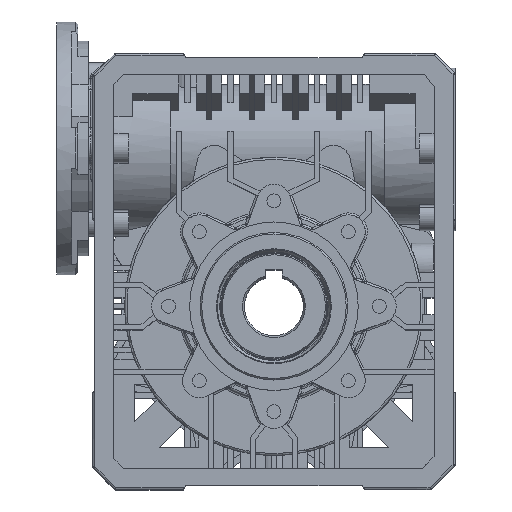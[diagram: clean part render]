
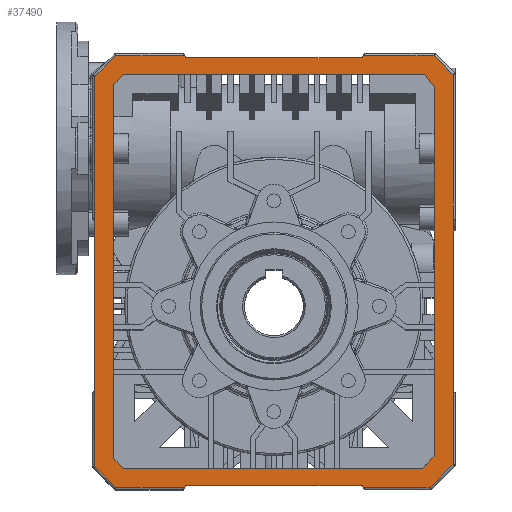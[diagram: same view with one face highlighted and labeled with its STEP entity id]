
A CAD part, top view. The second image highlights one B-rep face of the part: STEP entity #37490.
In plain terms, the highlighted planar face has unit normal (0, 0, 1).
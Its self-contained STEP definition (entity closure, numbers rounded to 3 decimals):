
#30376=CARTESIAN_POINT('',(-85.0,41.577,112.));
#30377=VERTEX_POINT('',#30376);
#32781=CARTESIAN_POINT('',(-42.423,119.0,112.));
#32782=VERTEX_POINT('',#32781);
#32790=CARTESIAN_POINT('',(-41.845,118.0,112.));
#32791=VERTEX_POINT('',#32790);
#32792=CARTESIAN_POINT('',(-41.845,118.0,112.));
#32793=DIRECTION('',(-0.5,0.866,0.0));
#32794=VECTOR('',#32793,1.155);
#32795=LINE('',#32792,#32794);
#32796=EDGE_CURVE('',#32791,#32782,#32795,.T.);
#33079=CARTESIAN_POINT('',(-85.,-40.423,112.));
#33080=VERTEX_POINT('',#33079);
#36899=CARTESIAN_POINT('',(85.0,-40.423,112.));
#36900=VERTEX_POINT('',#36899);
#36908=CARTESIAN_POINT('',(85.,-75.086,112.));
#36909=VERTEX_POINT('',#36908);
#36910=CARTESIAN_POINT('',(85.,-40.423,112.));
#36911=DIRECTION('',(0.0,-1.0,0.0));
#36912=VECTOR('',#36911,34.663);
#36913=LINE('',#36910,#36912);
#36914=EDGE_CURVE('',#36900,#36909,#36913,.T.);
#36939=CARTESIAN_POINT('',(74.086,-86.,112.));
#36940=VERTEX_POINT('',#36939);
#36941=CARTESIAN_POINT('',(85.,-75.086,112.));
#36942=DIRECTION('',(-0.707,-0.707,0.0));
#36943=VECTOR('',#36942,15.435);
#36944=LINE('',#36941,#36943);
#36945=EDGE_CURVE('',#36909,#36940,#36944,.T.);
#36963=CARTESIAN_POINT('',(42.423,-86.,112.));
#36964=VERTEX_POINT('',#36963);
#36980=CARTESIAN_POINT('',(74.086,-86.,112.));
#36981=DIRECTION('',(-1.0,0.0,0.0));
#36982=VECTOR('',#36981,31.663);
#36983=LINE('',#36980,#36982);
#36984=EDGE_CURVE('',#36940,#36964,#36983,.T.);
#37016=CARTESIAN_POINT('',(-42.423,-86.0,112.));
#37017=VERTEX_POINT('',#37016);
#37025=CARTESIAN_POINT('',(-75.086,-86.,112.));
#37026=VERTEX_POINT('',#37025);
#37027=CARTESIAN_POINT('',(-42.423,-86.0,112.));
#37028=DIRECTION('',(-1.0,0.0,0.0));
#37029=VECTOR('',#37028,32.663);
#37030=LINE('',#37027,#37029);
#37031=EDGE_CURVE('',#37017,#37026,#37030,.T.);
#37056=CARTESIAN_POINT('',(-85.,-76.086,112.));
#37057=VERTEX_POINT('',#37056);
#37058=CARTESIAN_POINT('',(-75.086,-86.,112.));
#37059=DIRECTION('',(-0.707,0.707,0.0));
#37060=VECTOR('',#37059,14.021);
#37061=LINE('',#37058,#37060);
#37062=EDGE_CURVE('',#37026,#37057,#37061,.T.);
#37089=CARTESIAN_POINT('',(-85.0,-76.086,112.));
#37090=DIRECTION('',(0.0,1.0,0.0));
#37091=VECTOR('',#37090,35.663);
#37092=LINE('',#37089,#37091);
#37093=EDGE_CURVE('',#37057,#33080,#37092,.T.);
#37126=CARTESIAN_POINT('',(-85.0,109.086,112.));
#37127=VERTEX_POINT('',#37126);
#37128=CARTESIAN_POINT('',(-85.0,41.577,112.));
#37129=DIRECTION('',(0.0,1.0,0.0));
#37130=VECTOR('',#37129,67.508);
#37131=LINE('',#37128,#37130);
#37132=EDGE_CURVE('',#30377,#37127,#37131,.T.);
#37157=CARTESIAN_POINT('',(-75.086,119.0,112.));
#37158=VERTEX_POINT('',#37157);
#37159=CARTESIAN_POINT('',(-85.,109.086,112.));
#37160=DIRECTION('',(0.707,0.707,0.0));
#37161=VECTOR('',#37160,14.021);
#37162=LINE('',#37159,#37161);
#37163=EDGE_CURVE('',#37127,#37158,#37162,.T.);
#37190=CARTESIAN_POINT('',(-75.086,119.0,112.));
#37191=DIRECTION('',(1.0,0.0,0.0));
#37192=VECTOR('',#37191,32.663);
#37193=LINE('',#37190,#37192);
#37194=EDGE_CURVE('',#37158,#32782,#37193,.T.);
#37226=CARTESIAN_POINT('',(42.423,119.0,112.));
#37227=VERTEX_POINT('',#37226);
#37235=CARTESIAN_POINT('',(76.086,119.0,112.));
#37236=VERTEX_POINT('',#37235);
#37237=CARTESIAN_POINT('',(42.423,119.0,112.));
#37238=DIRECTION('',(1.0,0.0,0.0));
#37239=VECTOR('',#37238,33.663);
#37240=LINE('',#37237,#37239);
#37241=EDGE_CURVE('',#37227,#37236,#37240,.T.);
#37266=CARTESIAN_POINT('',(85.,110.086,112.));
#37267=VERTEX_POINT('',#37266);
#37268=CARTESIAN_POINT('',(76.086,119.0,112.));
#37269=DIRECTION('',(0.707,-0.707,0.0));
#37270=VECTOR('',#37269,12.607);
#37271=LINE('',#37268,#37270);
#37272=EDGE_CURVE('',#37236,#37267,#37271,.T.);
#37301=CARTESIAN_POINT('',(85.,40.423,112.));
#37302=VERTEX_POINT('',#37301);
#37318=CARTESIAN_POINT('',(85.,110.086,112.));
#37319=DIRECTION('',(0.0,-1.0,0.0));
#37320=VECTOR('',#37319,69.663);
#37321=LINE('',#37318,#37320);
#37322=EDGE_CURVE('',#37267,#37302,#37321,.T.);
#37356=CARTESIAN_POINT('',(0.672,17.481,112.));
#37357=DIRECTION('',(0.0,0.0,1.0));
#37358=DIRECTION('',(1.0,0.0,0.0));
#37359=AXIS2_PLACEMENT_3D('',#37356,#37357,#37358);
#37360=PLANE('',#37359);
#37361=ORIENTED_EDGE('',*,*,#36914,.F.);
#37362=CARTESIAN_POINT('',(85.0,-40.423,112.));
#37363=DIRECTION('',(0.0,1.0,0.0));
#37364=VECTOR('',#37363,80.845);
#37365=LINE('',#37362,#37364);
#37366=EDGE_CURVE('',#36900,#37302,#37365,.T.);
#37367=ORIENTED_EDGE('',*,*,#37366,.T.);
#37368=ORIENTED_EDGE('',*,*,#37322,.F.);
#37369=ORIENTED_EDGE('',*,*,#37272,.F.);
#37370=ORIENTED_EDGE('',*,*,#37241,.F.);
#37371=CARTESIAN_POINT('',(41.845,118.0,112.));
#37372=VERTEX_POINT('',#37371);
#37373=CARTESIAN_POINT('',(42.423,119.,112.));
#37374=DIRECTION('',(-0.5,-0.866,0.0));
#37375=VECTOR('',#37374,1.155);
#37376=LINE('',#37373,#37375);
#37377=EDGE_CURVE('',#37227,#37372,#37376,.T.);
#37378=ORIENTED_EDGE('',*,*,#37377,.T.);
#37379=CARTESIAN_POINT('',(41.845,118.0,112.));
#37380=DIRECTION('',(-1.0,0.0,0.0));
#37381=VECTOR('',#37380,83.691);
#37382=LINE('',#37379,#37381);
#37383=EDGE_CURVE('',#37372,#32791,#37382,.T.);
#37384=ORIENTED_EDGE('',*,*,#37383,.T.);
#37385=ORIENTED_EDGE('',*,*,#32796,.T.);
#37386=ORIENTED_EDGE('',*,*,#37194,.F.);
#37387=ORIENTED_EDGE('',*,*,#37163,.F.);
#37388=ORIENTED_EDGE('',*,*,#37132,.F.);
#37389=CARTESIAN_POINT('',(-85.0,-40.423,112.));
#37390=DIRECTION('',(0.0,1.0,0.0));
#37391=VECTOR('',#37390,82.0);
#37392=LINE('',#37389,#37391);
#37393=EDGE_CURVE('',#33080,#30377,#37392,.T.);
#37394=ORIENTED_EDGE('',*,*,#37393,.F.);
#37395=ORIENTED_EDGE('',*,*,#37093,.F.);
#37396=ORIENTED_EDGE('',*,*,#37062,.F.);
#37397=ORIENTED_EDGE('',*,*,#37031,.F.);
#37398=CARTESIAN_POINT('',(-41.845,-85.,112.));
#37399=VERTEX_POINT('',#37398);
#37400=CARTESIAN_POINT('',(-42.423,-86.0,112.));
#37401=DIRECTION('',(0.5,0.866,0.0));
#37402=VECTOR('',#37401,1.155);
#37403=LINE('',#37400,#37402);
#37404=EDGE_CURVE('',#37017,#37399,#37403,.T.);
#37405=ORIENTED_EDGE('',*,*,#37404,.T.);
#37406=CARTESIAN_POINT('',(41.845,-85.,112.));
#37407=VERTEX_POINT('',#37406);
#37408=CARTESIAN_POINT('',(-41.845,-85.,112.));
#37409=DIRECTION('',(1.0,0.0,0.0));
#37410=VECTOR('',#37409,83.691);
#37411=LINE('',#37408,#37410);
#37412=EDGE_CURVE('',#37399,#37407,#37411,.T.);
#37413=ORIENTED_EDGE('',*,*,#37412,.T.);
#37414=CARTESIAN_POINT('',(41.845,-85.0,112.));
#37415=DIRECTION('',(0.5,-0.866,0.0));
#37416=VECTOR('',#37415,1.155);
#37417=LINE('',#37414,#37416);
#37418=EDGE_CURVE('',#37407,#36964,#37417,.T.);
#37419=ORIENTED_EDGE('',*,*,#37418,.T.);
#37420=ORIENTED_EDGE('',*,*,#36984,.F.);
#37421=ORIENTED_EDGE('',*,*,#36945,.F.);
#37422=EDGE_LOOP('',(#37361,#37367,#37368,#37369,#37370,#37378,#37384,#37385,#37386,#37387,#37388,#37394,#37395,#37396,#37397,#37405,#37413,#37419,#37420,#37421));
#37423=FACE_OUTER_BOUND('',#37422,.T.);
#37424=CARTESIAN_POINT('',(76.,104.358,112.));
#37425=VERTEX_POINT('',#37424);
#37426=CARTESIAN_POINT('',(76.,-71.358,112.));
#37427=VERTEX_POINT('',#37426);
#37428=CARTESIAN_POINT('',(76.,104.358,112.));
#37429=DIRECTION('',(0.0,-1.0,0.0));
#37430=VECTOR('',#37429,175.716);
#37431=LINE('',#37428,#37430);
#37432=EDGE_CURVE('',#37425,#37427,#37431,.T.);
#37433=ORIENTED_EDGE('',*,*,#37432,.T.);
#37434=CARTESIAN_POINT('',(70.358,-77.,112.));
#37435=VERTEX_POINT('',#37434);
#37436=CARTESIAN_POINT('',(76.,-71.358,112.));
#37437=DIRECTION('',(-0.707,-0.707,0.0));
#37438=VECTOR('',#37437,7.979);
#37439=LINE('',#37436,#37438);
#37440=EDGE_CURVE('',#37427,#37435,#37439,.T.);
#37441=ORIENTED_EDGE('',*,*,#37440,.T.);
#37442=CARTESIAN_POINT('',(-71.358,-77.,112.));
#37443=VERTEX_POINT('',#37442);
#37444=CARTESIAN_POINT('',(70.358,-77.,112.));
#37445=DIRECTION('',(-1.0,0.0,0.0));
#37446=VECTOR('',#37445,141.716);
#37447=LINE('',#37444,#37446);
#37448=EDGE_CURVE('',#37435,#37443,#37447,.T.);
#37449=ORIENTED_EDGE('',*,*,#37448,.T.);
#37450=CARTESIAN_POINT('',(-76.0,-72.358,112.));
#37451=VERTEX_POINT('',#37450);
#37452=CARTESIAN_POINT('',(-71.358,-77.,112.));
#37453=DIRECTION('',(-0.707,0.707,0.0));
#37454=VECTOR('',#37453,6.565);
#37455=LINE('',#37452,#37454);
#37456=EDGE_CURVE('',#37443,#37451,#37455,.T.);
#37457=ORIENTED_EDGE('',*,*,#37456,.T.);
#37458=CARTESIAN_POINT('',(-76.0,105.358,112.));
#37459=VERTEX_POINT('',#37458);
#37460=CARTESIAN_POINT('',(-76.0,-72.358,112.));
#37461=DIRECTION('',(0.0,1.0,0.0));
#37462=VECTOR('',#37461,177.716);
#37463=LINE('',#37460,#37462);
#37464=EDGE_CURVE('',#37451,#37459,#37463,.T.);
#37465=ORIENTED_EDGE('',*,*,#37464,.T.);
#37466=CARTESIAN_POINT('',(-71.358,110.0,112.));
#37467=VERTEX_POINT('',#37466);
#37468=CARTESIAN_POINT('',(-76.0,105.358,112.));
#37469=DIRECTION('',(0.707,0.707,0.0));
#37470=VECTOR('',#37469,6.565);
#37471=LINE('',#37468,#37470);
#37472=EDGE_CURVE('',#37459,#37467,#37471,.T.);
#37473=ORIENTED_EDGE('',*,*,#37472,.T.);
#37474=CARTESIAN_POINT('',(71.358,110.0,112.));
#37475=VERTEX_POINT('',#37474);
#37476=CARTESIAN_POINT('',(-71.358,110.0,112.));
#37477=DIRECTION('',(1.0,0.0,0.0));
#37478=VECTOR('',#37477,142.716);
#37479=LINE('',#37476,#37478);
#37480=EDGE_CURVE('',#37467,#37475,#37479,.T.);
#37481=ORIENTED_EDGE('',*,*,#37480,.T.);
#37482=CARTESIAN_POINT('',(71.358,110.0,112.));
#37483=DIRECTION('',(0.635,-0.772,0.0));
#37484=VECTOR('',#37483,7.306);
#37485=LINE('',#37482,#37484);
#37486=EDGE_CURVE('',#37475,#37425,#37485,.T.);
#37487=ORIENTED_EDGE('',*,*,#37486,.T.);
#37488=EDGE_LOOP('',(#37433,#37441,#37449,#37457,#37465,#37473,#37481,#37487));
#37489=FACE_BOUND('',#37488,.T.);
#37490=ADVANCED_FACE('',(#37423,#37489),#37360,.T.);
